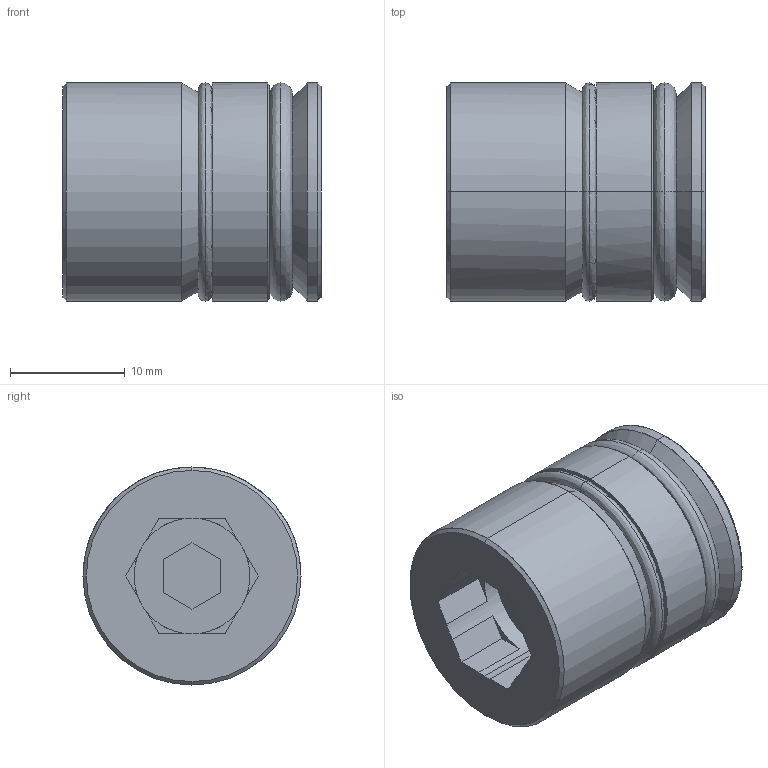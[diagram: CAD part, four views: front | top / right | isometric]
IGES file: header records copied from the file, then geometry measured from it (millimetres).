
Start section: START RECORD GO HERE.
Global section: file name: TRI-19.igs; native system: DASSAULT SYSTEMES CATIA V5 R20 - www.3ds.com; preprocessor: CATIA Version 5 Release 20 ; author: Utente; organization: NB04-ASUS; date: 20210222.201028; units: millimetre
Bounding box: 22.5 x 19 x 19 mm (x, y, z)
Surface area: 2503.5 mm2 (no closed solid volume)
Topology: 0 solids, 0 shells, 56 faces, 320 edges, 320 vertices
Faces by surface type: plane 30, revolution 26
